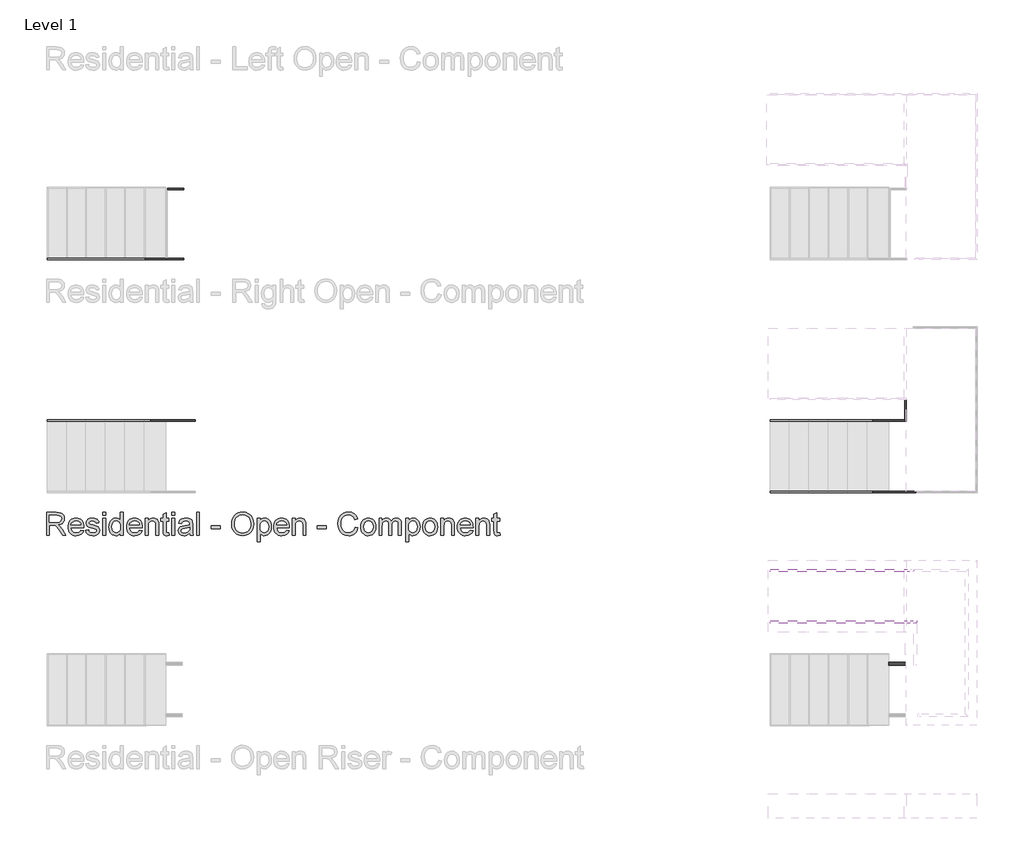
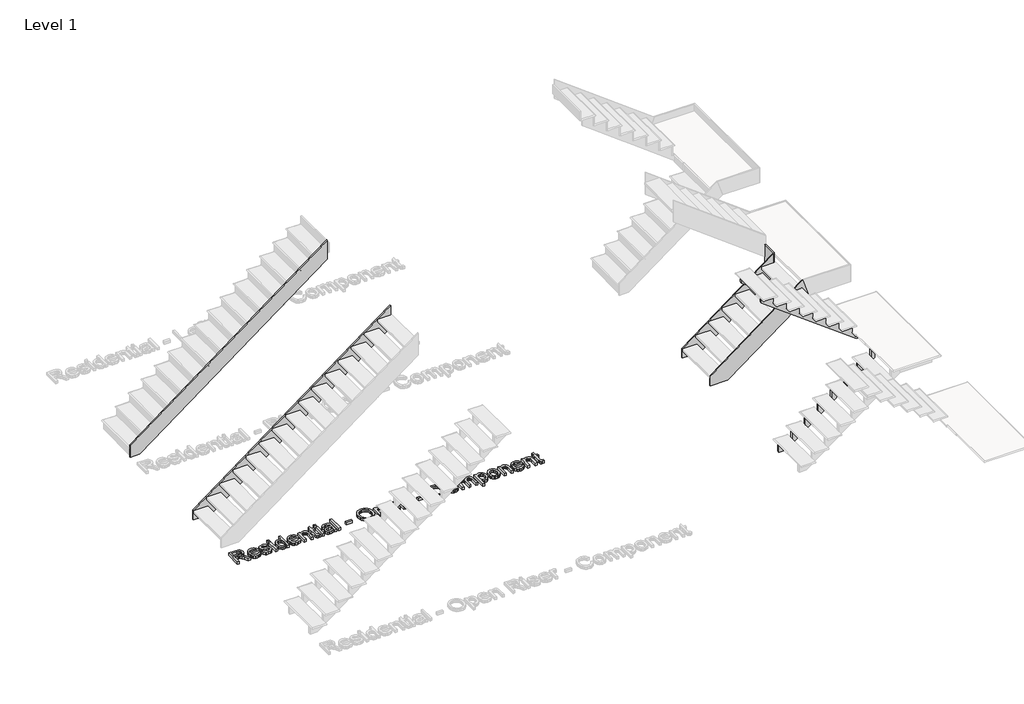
# One storey, part 6 of 15: 9 members, 1 proxy.
"""IFC4 building model written with IfcOpenShell, lengths in millimetres."""

from ifc_helpers import new_model, si_unit, frame, origin, origin_with_axes, place, context, project, spatial, polyline, outline, extrude, faceted_brep, element, save

model = new_model("IFC4")

# Units and contexts
model_context = context("Model", 3, world=origin())
ifc_project = project(units=[si_unit("LENGTHUNIT", "METRE", prefix="MILLI")], contexts=[model_context])

# Site, building, storey
site = spatial("IfcSite", under=ifc_project)
building = spatial("IfcBuilding", under=site)
storey = spatial("IfcBuildingStorey", under=building, Name="Level 1", Elevation=0.0)

# Proxy
placement = place(None, origin())
element("IfcBuildingElementProxy", 1, Name="12\" Arial", ObjectType="12\" Arial", at=placement, inside=storey, context=model_context, shape_type="SweptSolid", body=[
    extrude(outline(polyline([(-27238.310174, -5763.1232123), (-27238.310174, -5463.012443), (-27108.9899817, -5463.012443), (-27074.2328904, -5465.0365055), (-27048.9458471, -5471.108693), (-27030.4636837, -5482.3188854), (-27016.1212317, -5499.7569623), (-27006.9167846, -5521.380544), (-27003.8486356, -5545.1472507), (-27008.9316885, -5574.7113854), (-27024.1808471, -5599.219943), (-27035.7321993, -5609.2074551), (-27050.0540442, -5617.1892219), (-27087.0092125, -5627.13552), (-27065.6878664, -5643.1814815), (-27035.2811356, -5681.7943661), (-26985.238251, -5763.1232123), (-27028.8334433, -5763.1232123), (-27067.8859433, -5700.9176354), (-27096.0945971, -5659.7403277), (-27115.913924, -5640.2873469), (-27133.7549817, -5633.1435969), (-27155.5159433, -5631.8247507), (-27200.7963279, -5631.8247507), (-27200.7963279, -5763.1232123), (-27238.310174, -5763.1232123)]), holes=[polyline([(-27200.7963279, -5594.3109046), (-27116.8297894, -5594.3109046), (-27092.7150539, -5592.9828998), (-27074.003924, -5588.9988854), (-27059.9179144, -5582.0932604), (-27049.6785394, -5572.0004238), (-27043.4414962, -5559.7919382), (-27041.3624817, -5546.5393661), (-27045.3281789, -5528.2403757), (-27057.2252702, -5513.494943), (-27077.6948615, -5503.7684527), (-27107.3780587, -5500.5262892), (-27200.7963279, -5500.5262892), (-27200.7963279, -5594.3109046)])]), origin_with_axes(), (0.0, 0.0, 1.0), 50.8),
    extrude(outline(polyline([(-26788.5836356, -5697.4739815), (-26751.8024817, -5702.1632123), (-26765.0550539, -5729.8772988), (-26786.2023856, -5750.5941738), (-26814.7682269, -5763.5078757), (-26850.2763279, -5767.812443), (-26873.5530466, -5765.955526), (-26894.2928183, -5760.3847748), (-26912.4956428, -5751.1001894), (-26928.1615202, -5738.10177), (-26940.7592486, -5721.7512832), (-26949.757626, -5702.4104959), (-26955.1566524, -5680.0794082), (-26956.9563279, -5654.75802), (-26955.1383351, -5628.5780079), (-26949.6843567, -5605.5027796), (-26940.5943928, -5585.5323349), (-26927.8684433, -5568.6666738), (-26912.2437798, -5555.2675632), (-26894.457674, -5545.69677), (-26874.510126, -5539.954294), (-26852.4011356, -5538.0401354), (-26831.0042305, -5539.9497147), (-26811.6542846, -5545.6784527), (-26794.3512978, -5555.2263493), (-26779.0952702, -5568.5934046), (-26766.6417906, -5585.422431), (-26757.7464481, -5605.3562411), (-26752.4092426, -5628.3948349), (-26750.630174, -5654.5382123), (-26750.8499817, -5664.6493661), (-26919.4424817, -5664.6493661), (-26912.9489962, -5692.7297988), (-26897.8646933, -5713.3734046), (-26876.0945731, -5726.0672988), (-26849.5436356, -5730.2985969), (-26829.5777702, -5728.338645), (-26812.7624817, -5722.4587892), (-26799.0977702, -5712.2926834), (-26788.5836356, -5697.4739815)]), holes=[polyline([(-26919.4424817, -5627.13552), (-26788.1440202, -5627.13552), (-26793.2179144, -5607.316193), (-26803.1642125, -5593.1385969), (-26825.0350779, -5579.9501354), (-26852.547674, -5575.5539815), (-26877.8347173, -5579.0617459), (-26898.743924, -5589.5850392), (-26913.2787077, -5605.9881882), (-26919.4424817, -5627.13552)])]), origin_with_axes(), (0.0, 0.0, 1.0), 50.8),
    extrude(outline(polyline([(-26727.1840202, -5697.4739815), (-26689.670174, -5692.7847507), (-26683.7536837, -5708.8307123), (-26672.3053664, -5720.6270584), (-26655.2519529, -5727.8807123), (-26632.520174, -5730.2985969), (-26610.0631548, -5728.0822027), (-26594.2736356, -5721.43302), (-26584.9318087, -5711.7981161), (-26581.8178664, -5700.6245584), (-26584.950126, -5691.0629238), (-26594.3469048, -5683.7726354), (-26632.9597894, -5673.0753277), (-26689.4503664, -5654.7213854), (-26703.747025, -5645.4986209), (-26714.1054625, -5633.2901354), (-26720.3974577, -5618.8744142), (-26722.4947894, -5603.029943), (-26720.8095971, -5588.4951594), (-26715.7540202, -5575.0777315), (-26707.7859914, -5563.3088613), (-26697.3634433, -5553.7197507), (-26673.5143087, -5542.6194623), (-26641.2392125, -5538.0401354), (-26616.8222414, -5539.8810248), (-26595.5924817, -5545.403693), (-26578.520751, -5554.0677796), (-26566.5778664, -5565.3329238), (-26558.6647894, -5580.0325632), (-26553.6824817, -5599.0001354), (-26591.1963279, -5603.6893661), (-26595.9313519, -5591.8838613), (-26605.3006548, -5582.9908084), (-26619.3958231, -5577.4131882), (-26638.3084433, -5575.5539815), (-26659.8495971, -5577.3307604), (-26674.2103664, -5582.6610969), (-26682.288299, -5590.3543661), (-26684.9809433, -5599.219943), (-26680.5115202, -5610.1370584), (-26666.5170971, -5618.4164815), (-26634.2053664, -5626.4028277), (-26579.1435394, -5644.0607123), (-26564.5995971, -5652.5049911), (-26553.5725779, -5664.0632123), (-26546.6211596, -5678.7720104), (-26544.3040202, -5696.66802), (-26547.0241404, -5715.1685007), (-26555.184501, -5732.569943), (-26568.4737077, -5747.5077075), (-26586.5803664, -5758.6171546), (-26608.4512317, -5765.5136209), (-26633.0330587, -5767.812443), (-26670.858299, -5763.3796546), (-26698.4624817, -5750.0812892), (-26716.8896933, -5728.0638854), (-26727.1840202, -5697.4739815)])), origin_with_axes(), (0.0, 0.0, 1.0), 50.8),
    extrude(outline(polyline([(-26502.1009433, -5763.1232123), (-26502.1009433, -5542.7293661), (-26464.5870971, -5542.7293661), (-26464.5870971, -5763.1232123), (-26502.1009433, -5763.1232123)])), origin_with_axes(), (0.0, 0.0, 1.0), 50.8),
    extrude(outline(polyline([(-26502.1009433, -5500.5262892), (-26502.1009433, -5463.012443), (-26464.5870971, -5463.012443), (-26464.5870971, -5500.5262892), (-26502.1009433, -5500.5262892)])), origin_with_axes(), (0.0, 0.0, 1.0), 50.8),
    extrude(outline(polyline([(-26272.3286356, -5763.1232123), (-26272.3286356, -5727.7341738), (-26283.5525659, -5745.2684166), (-26297.1485875, -5757.7928757), (-26313.1167005, -5765.3075512), (-26331.4569048, -5767.812443), (-26355.7090202, -5764.1856161), (-26377.9095971, -5753.3051354), (-26396.7031548, -5735.931169), (-26410.7342125, -5712.8238854), (-26419.4715683, -5684.9174671), (-26422.3840202, -5653.1460969), (-26419.7005346, -5621.7685488), (-26411.6500779, -5593.4316738), (-26398.2418087, -5569.747395), (-26379.4848856, -5552.3276354), (-26356.7989, -5541.6120104), (-26331.6034433, -5538.0401354), (-26313.249501, -5540.5953998), (-26297.0203664, -5548.261193), (-26283.2640683, -5560.0117459), (-26272.3286356, -5574.8212892), (-26272.3286356, -5463.012443), (-26234.8147894, -5463.012443), (-26234.8147894, -5763.1232123), (-26272.3286356, -5763.1232123)]), holes=[polyline([(-26384.870174, -5652.9995584), (-26380.638876, -5686.9323709), (-26367.9449817, -5711.0654238), (-26349.4994529, -5725.4903036), (-26328.013251, -5730.2985969), (-26306.5362077, -5725.7101113), (-26288.5577702, -5711.9446546), (-26276.3859192, -5688.7457844), (-26272.3286356, -5655.8570584), (-26276.4591885, -5619.9001834), (-26288.8508471, -5594.9703277), (-26307.2872173, -5580.408068), (-26329.5519048, -5575.5539815), (-26351.2579144, -5580.2157363), (-26369.0440202, -5594.2010007), (-26380.9136356, -5618.2241498), (-26384.870174, -5652.9995584)])]), origin_with_axes(), (0.0, 0.0, 1.0), 50.8),
    extrude(outline(polyline([(-26024.2390202, -5697.4739815), (-25987.4578664, -5702.1632123), (-26000.7104385, -5729.8772988), (-26021.8577702, -5750.5941738), (-26050.4236115, -5763.5078757), (-26085.9317125, -5767.812443), (-26109.2084313, -5765.955526), (-26129.9482029, -5760.3847748), (-26148.1510274, -5751.1001894), (-26163.8169048, -5738.10177), (-26176.4146332, -5721.7512832), (-26185.4130106, -5702.4104959), (-26190.812037, -5680.0794082), (-26192.6117125, -5654.75802), (-26190.7937197, -5628.5780079), (-26185.3397414, -5605.5027796), (-26176.2497774, -5585.5323349), (-26163.5238279, -5568.6666738), (-26147.8991644, -5555.2675632), (-26130.1130587, -5545.69677), (-26110.1655106, -5539.954294), (-26088.0565202, -5538.0401354), (-26066.6596152, -5539.9497147), (-26047.3096692, -5545.6784527), (-26030.0066825, -5555.2263493), (-26014.7506548, -5568.5934046), (-26002.2971753, -5585.422431), (-25993.4018327, -5605.3562411), (-25988.0646272, -5628.3948349), (-25986.2855587, -5654.5382123), (-25986.5053664, -5664.6493661), (-26155.0978664, -5664.6493661), (-26148.6043808, -5692.7297988), (-26133.5200779, -5713.3734046), (-26111.7499577, -5726.0672988), (-26085.1990202, -5730.2985969), (-26065.2331548, -5728.338645), (-26048.4178664, -5722.4587892), (-26034.7531548, -5712.2926834), (-26024.2390202, -5697.4739815)]), holes=[polyline([(-26155.0978664, -5627.13552), (-26023.7994048, -5627.13552), (-26028.873299, -5607.316193), (-26038.8195971, -5593.1385969), (-26060.6904625, -5579.9501354), (-26088.2030587, -5575.5539815), (-26113.4901019, -5579.0617459), (-26134.3993087, -5589.5850392), (-26148.9340923, -5605.9881882), (-26155.0978664, -5627.13552)])]), origin_with_axes(), (0.0, 0.0, 1.0), 50.8),
    extrude(outline(polyline([(-25948.7717125, -5763.1232123), (-25948.7717125, -5542.7293661), (-25911.2578664, -5542.7293661), (-25911.2578664, -5573.502443), (-25898.2251019, -5557.9876834), (-25882.5729625, -5546.9057123), (-25864.3014481, -5540.2565296), (-25843.4105587, -5538.0401354), (-25824.9192365, -5539.8260729), (-25807.9848856, -5545.1838854), (-25793.8622414, -5553.4449911), (-25783.8060394, -5563.9408084), (-25772.5592125, -5591.5266738), (-25770.5809433, -5627.794943), (-25770.5809433, -5763.1232123), (-25808.0947894, -5763.1232123), (-25808.0947894, -5632.85052), (-25812.417674, -5599.6595584), (-25818.398275, -5589.7773709), (-25827.6943087, -5582.1115777), (-25839.6097173, -5577.1933805), (-25853.4484433, -5575.5539815), (-25875.4200539, -5579.2357604), (-25894.149501, -5590.2810969), (-25901.6344108, -5599.2977916), (-25906.980775, -5611.6207604), (-25911.2578664, -5646.18552), (-25911.2578664, -5763.1232123), (-25948.7717125, -5763.1232123)])), origin_with_axes(), (0.0, 0.0, 1.0), 50.8),
    extrude(outline(polyline([(-25639.2824817, -5731.8372507), (-25634.593251, -5764.2222507), (-25662.6553664, -5767.812443), (-25680.6612798, -5766.2554719), (-25694.0878664, -5761.5845584), (-25703.5762317, -5754.3858565), (-25709.7674817, -5745.24552), (-25713.174501, -5729.5475873), (-25714.310174, -5702.6760969), (-25714.310174, -5580.2432123), (-25742.4455587, -5580.2432123), (-25742.4455587, -5542.7293661), (-25714.310174, -5542.7293661), (-25714.310174, -5489.1695584), (-25676.7963279, -5467.11552), (-25676.7963279, -5542.7293661), (-25639.2824817, -5542.7293661), (-25639.2824817, -5580.2432123), (-25676.7963279, -5580.2432123), (-25676.7963279, -5701.5770584), (-25674.8180587, -5720.9201354), (-25668.407001, -5727.7708084), (-25655.6215202, -5730.2985969), (-25639.2824817, -5731.8372507)])), origin_with_axes(), (0.0, 0.0, 1.0), 50.8),
    extrude(outline(polyline([(-25601.7686356, -5763.1232123), (-25601.7686356, -5542.7293661), (-25564.2547894, -5542.7293661), (-25564.2547894, -5763.1232123), (-25601.7686356, -5763.1232123)])), origin_with_axes(), (0.0, 0.0, 1.0), 50.8),
    extrude(outline(polyline([(-25601.7686356, -5500.5262892), (-25601.7686356, -5463.012443), (-25564.2547894, -5463.012443), (-25564.2547894, -5500.5262892), (-25601.7686356, -5500.5262892)])), origin_with_axes(), (0.0, 0.0, 1.0), 50.8),
    extrude(outline(polyline([(-25367.3070971, -5734.9878277), (-25385.2305827, -5750.3560488), (-25403.6852702, -5760.4122507), (-25423.0924577, -5765.962395), (-25443.8734433, -5767.812443), (-25475.2235154, -5763.3613373), (-25498.3491164, -5750.00802), (-25512.6091404, -5729.7307604), (-25517.3624817, -5704.5078277), (-25515.5673856, -5688.9564334), (-25510.1820971, -5674.8337892), (-25501.8751981, -5662.7443661), (-25491.3152702, -5653.2926354), (-25465.048251, -5640.9834046), (-25432.5899817, -5635.3416738), (-25394.2335394, -5629.4068661), (-25367.5269048, -5622.4462892), (-25367.3070971, -5614.0935969), (-25369.8898375, -5597.3515777), (-25377.6380587, -5586.3978277), (-25394.9662317, -5578.264943), (-25419.1084433, -5575.5539815), (-25441.4555587, -5577.3582363), (-25457.0619048, -5582.7710007), (-25467.7042606, -5592.7814094), (-25475.1594048, -5608.3785969), (-25512.673251, -5603.6893661), (-25506.1614481, -5583.1739815), (-25496.4441164, -5567.0547507), (-25482.614549, -5554.7272027), (-25463.7660394, -5545.5868661), (-25440.7137077, -5539.926818), (-25414.272674, -5538.0401354), (-25388.9123615, -5539.7070104), (-25368.8091164, -5544.7076354), (-25353.6515442, -5552.2268902), (-25343.128251, -5561.4496546), (-25336.1493567, -5572.8521786), (-25331.6249817, -5586.9107123), (-25329.793251, -5619.7353277), (-25329.793251, -5666.4078277), (-25327.888251, -5731.5808084), (-25320.4147894, -5763.1232123), (-25357.9286356, -5763.1232123), (-25367.3070971, -5734.9878277)]), holes=[polyline([(-25367.3070971, -5659.9601354), (-25427.8274817, -5671.4634046), (-25460.1025779, -5677.5447507), (-25474.7197894, -5687.4360969), (-25479.8486356, -5701.8701354), (-25477.0552462, -5713.0253757), (-25468.6750779, -5722.1657123), (-25454.8913039, -5728.2653757), (-25435.8870971, -5730.2985969), (-25415.7380587, -5728.0547267), (-25397.9336356, -5721.3231161), (-25383.4995971, -5711.404294), (-25373.4617125, -5699.5987892), (-25369.0106067, -5687.4360969), (-25367.5269048, -5670.5841738), (-25367.3070971, -5659.9601354)])]), origin_with_axes(), (0.0, 0.0, 1.0), 50.8),
    extrude(outline(polyline([(-25278.2117125, -5763.1232123), (-25278.2117125, -5463.012443), (-25240.6978664, -5463.012443), (-25240.6978664, -5763.1232123), (-25278.2117125, -5763.1232123)])), origin_with_axes(), (0.0, 0.0, 1.0), 50.8),
    extrude(outline(polyline([(-25085.953251, -5674.0278277), (-25085.953251, -5636.5139815), (-24968.7224817, -5636.5139815), (-24968.7224817, -5674.0278277), (-25085.953251, -5674.0278277)])), origin_with_axes(), (0.0, 0.0, 1.0), 50.8),
    extrude(outline(polyline([(-24818.6670971, -5617.0243661), (-24816.1667846, -5581.8230801), (-24808.6658471, -5550.6607604), (-24796.1642846, -5523.537407), (-24778.6620971, -5500.45302), (-24757.2079505, -5482.0212291), (-24732.8505106, -5468.8556642), (-24705.5897774, -5460.9563253), (-24675.425751, -5458.3232123), (-24636.0618567, -5463.2688854), (-24600.7644048, -5478.1059046), (-24571.4567125, -5501.7901834), (-24550.0620971, -5533.2776354), (-24536.9835394, -5571.0479238), (-24532.6240202, -5613.5807123), (-24537.2125058, -5656.6813373), (-24550.9779625, -5694.9828277), (-24573.1602221, -5726.5252315), (-24602.9991164, -5749.3485969), (-24637.9943327, -5763.1964815), (-24675.6455587, -5767.812443), (-24715.613924, -5762.7110729), (-24751.1128664, -5747.4069623), (-24780.3472894, -5723.283068), (-24801.5220971, -5691.7223469), (-24814.3808471, -5655.4082844), (-24818.6670971, -5617.0243661)]), holes=[polyline([(-24781.153251, -5617.3907123), (-24779.2780166, -5642.2610368), (-24773.6523135, -5664.3379719), (-24764.2761416, -5683.6215176), (-24751.149501, -5700.1116738), (-24735.1928363, -5713.3184527), (-24717.3265923, -5722.7518661), (-24697.550769, -5728.4119142), (-24675.8653664, -5730.2985969), (-24653.8090382, -5728.3935969), (-24633.7996692, -5722.6785969), (-24615.8372594, -5713.1535969), (-24599.9218087, -5699.8185969), (-24586.8913339, -5682.9804118), (-24577.5838519, -5662.9458565), (-24571.9993628, -5639.714931), (-24570.1378664, -5613.2876354), (-24573.3250779, -5580.0783565), (-24582.8867125, -5551.3751354), (-24598.5754865, -5527.9015055), (-24620.1441164, -5510.3810007), (-24646.1638519, -5499.473044), (-24675.2059433, -5495.8370584), (-24696.1380466, -5497.588651), (-24715.5589721, -5502.8434286), (-24733.4687197, -5511.6013914), (-24749.8672894, -5523.8625392), (-24763.5548976, -5540.2176053), (-24773.3317606, -5561.2573229), (-24779.1978784, -5586.9816918), (-24781.153251, -5617.3907123)])]), origin_with_axes(), (0.0, 0.0, 1.0), 50.8),
    extrude(outline(polyline([(-24485.7317125, -5847.5293661), (-24485.7317125, -5542.7293661), (-24448.2178664, -5542.7293661), (-24448.2178664, -5579.51052), (-24435.9819048, -5561.3672267), (-24422.2805587, -5548.4077315), (-24406.3078664, -5540.6320344), (-24387.2578664, -5538.0401354), (-24361.8883952, -5541.6669623), (-24339.7061356, -5552.547443), (-24321.6452702, -5570.0221546), (-24308.6399817, -5593.4316738), (-24300.7818567, -5621.0724911), (-24298.1624817, -5651.2410969), (-24301.1207269, -5683.3238613), (-24309.9954625, -5712.0179238), (-24324.5027702, -5735.8670584), (-24344.3587317, -5753.4150392), (-24367.4843327, -5764.2130921), (-24391.8005587, -5767.812443), (-24409.0463039, -5765.4037171), (-24424.442001, -5758.1775392), (-24437.6213039, -5747.2695825), (-24448.2178664, -5733.81552), (-24448.2178664, -5847.5293661), (-24485.7317125, -5847.5293661)]), holes=[polyline([(-24448.2178664, -5654.6847507), (-24444.1605827, -5688.3153277), (-24431.9887317, -5711.8347507), (-24414.0286115, -5725.6826354), (-24392.6065202, -5730.2985969), (-24370.8364, -5725.5177796), (-24352.4183471, -5711.1753277), (-24339.8618327, -5686.7949911), (-24335.6763279, -5651.90052), (-24339.7610875, -5618.4531161), (-24352.0153664, -5594.6039815), (-24369.9480106, -5580.3164815), (-24391.0678664, -5575.5539815), (-24412.27015, -5580.6187171), (-24430.8896933, -5595.8129238), (-24443.8858231, -5620.6603517), (-24448.2178664, -5654.6847507)])]), origin_with_axes(), (0.0, 0.0, 1.0), 50.8),
    extrude(outline(polyline([(-24101.6544048, -5697.4739815), (-24064.873251, -5702.1632123), (-24078.1258231, -5729.8772988), (-24099.2731548, -5750.5941738), (-24127.8389962, -5763.5078757), (-24163.3470971, -5767.812443), (-24186.6238159, -5765.955526), (-24207.3635875, -5760.3847748), (-24225.566412, -5751.1001894), (-24241.2322894, -5738.10177), (-24253.8300178, -5721.7512832), (-24262.8283952, -5702.4104959), (-24268.2274216, -5680.0794082), (-24270.0270971, -5654.75802), (-24268.2091043, -5628.5780079), (-24262.755126, -5605.5027796), (-24253.665162, -5585.5323349), (-24240.9392125, -5568.6666738), (-24225.314549, -5555.2675632), (-24207.5284433, -5545.69677), (-24187.5808952, -5539.954294), (-24165.4719048, -5538.0401354), (-24144.0749998, -5539.9497147), (-24124.7250539, -5545.6784527), (-24107.4220671, -5555.2263493), (-24092.1660394, -5568.5934046), (-24079.7125599, -5585.422431), (-24070.8172173, -5605.3562411), (-24065.4800118, -5628.3948349), (-24063.7009433, -5654.5382123), (-24063.920751, -5664.6493661), (-24232.513251, -5664.6493661), (-24226.0197654, -5692.7297988), (-24210.9354625, -5713.3734046), (-24189.1653423, -5726.0672988), (-24162.6144048, -5730.2985969), (-24142.6485394, -5728.338645), (-24125.833251, -5722.4587892), (-24112.1685394, -5712.2926834), (-24101.6544048, -5697.4739815)]), holes=[polyline([(-24232.513251, -5627.13552), (-24101.2147894, -5627.13552), (-24106.2886837, -5607.316193), (-24116.2349817, -5593.1385969), (-24138.1058471, -5579.9501354), (-24165.6184433, -5575.5539815), (-24190.9054865, -5579.0617459), (-24211.8146933, -5589.5850392), (-24226.3494769, -5605.9881882), (-24232.513251, -5627.13552)])]), origin_with_axes(), (0.0, 0.0, 1.0), 50.8),
    extrude(outline(polyline([(-24026.1870971, -5763.1232123), (-24026.1870971, -5542.7293661), (-23988.673251, -5542.7293661), (-23988.673251, -5573.502443), (-23975.6404865, -5557.9876834), (-23959.9883471, -5546.9057123), (-23941.7168327, -5540.2565296), (-23920.8259433, -5538.0401354), (-23902.3346212, -5539.8260729), (-23885.4002702, -5545.1838854), (-23871.277626, -5553.4449911), (-23861.221424, -5563.9408084), (-23849.9745971, -5591.5266738), (-23847.9963279, -5627.794943), (-23847.9963279, -5763.1232123), (-23885.510174, -5763.1232123), (-23885.510174, -5632.85052), (-23889.8330587, -5599.6595584), (-23895.8136596, -5589.7773709), (-23905.1096933, -5582.1115777), (-23917.0251019, -5577.1933805), (-23930.8638279, -5575.5539815), (-23952.8354385, -5579.2357604), (-23971.5648856, -5590.2810969), (-23979.0497954, -5599.2977916), (-23984.3961596, -5611.6207604), (-23988.673251, -5646.18552), (-23988.673251, -5763.1232123), (-24026.1870971, -5763.1232123)])), origin_with_axes(), (0.0, 0.0, 1.0), 50.8),
    extrude(outline(polyline([(-23697.9409433, -5674.0278277), (-23697.9409433, -5636.5139815), (-23580.710174, -5636.5139815), (-23580.710174, -5674.0278277), (-23697.9409433, -5674.0278277)])), origin_with_axes(), (0.0, 0.0, 1.0), 50.8),
    extrude(outline(polyline([(-23205.5717125, -5656.4432123), (-23168.0578664, -5666.1147507), (-23175.4809553, -5689.4441317), (-23185.3677221, -5709.8290055), (-23197.7181668, -5727.2693721), (-23212.5322894, -5741.7652315), (-23229.475799, -5753.1608866), (-23248.2144048, -5761.3006402), (-23268.7481067, -5766.1844923), (-23291.0769048, -5767.812443), (-23334.5896692, -5762.8850873), (-23369.1452702, -5748.10302), (-23395.6320971, -5723.9791257), (-23414.9385394, -5691.0262892), (-23426.7257269, -5652.2851834), (-23430.6547894, -5610.7964815), (-23426.2128423, -5567.0364334), (-23412.887001, -5529.2478277), (-23391.3733231, -5498.6304479), (-23362.3678664, -5476.3840777), (-23327.9679625, -5462.8384286), (-23290.2709433, -5458.3232123), (-23249.1394289, -5464.1664334), (-23231.2457089, -5471.4704599), (-23215.1333471, -5481.6960969), (-23201.0679445, -5494.5731642), (-23189.3151019, -5509.8314815), (-23172.7470971, -5547.4918661), (-23210.2609433, -5556.4307123), (-23223.2662317, -5529.0738132), (-23241.0340202, -5510.3077315), (-23263.7841164, -5499.4547267), (-23291.7363279, -5495.8370584), (-23323.9564721, -5499.8485488), (-23350.4249817, -5511.88302), (-23370.5099096, -5530.6765777), (-23383.5793087, -5554.9653277), (-23390.7505346, -5582.4229719), (-23393.1409433, -5610.7232123), (-23390.3109192, -5645.3795584), (-23381.8208471, -5675.3466738), (-23367.350174, -5699.4797267), (-23346.5783471, -5716.6338854), (-23321.6759673, -5726.882419), (-23294.8136356, -5730.2985969), (-23263.5001981, -5725.6460007), (-23237.4071933, -5711.6882123), (-23217.7069289, -5688.57177), (-23205.5717125, -5656.4432123)])), origin_with_axes(), (0.0, 0.0, 1.0), 50.8),
    extrude(outline(polyline([(-23130.5440202, -5652.9262892), (-23128.5153784, -5624.3833445), (-23122.4294529, -5599.7877796), (-23112.2862438, -5579.1395945), (-23098.085751, -5562.4387892), (-23083.7890923, -5551.7643781), (-23068.0087317, -5544.1397988), (-23050.7446692, -5539.5650512), (-23031.9969048, -5538.0401354), (-23011.3006368, -5539.8970524), (-22992.5872173, -5545.4678036), (-22975.8566464, -5554.752389), (-22961.108924, -5567.7508084), (-22949.0721632, -5584.0234466), (-22940.4744769, -5603.1306882), (-22935.3158652, -5625.0725332), (-22933.5963279, -5649.8489815), (-22936.637001, -5687.7474911), (-22945.7590202, -5716.5972507), (-22960.6967846, -5738.2025152), (-22981.1846933, -5754.3675392), (-23005.5192365, -5764.4512171), (-23031.9969048, -5767.812443), (-23052.9954084, -5765.962395), (-23071.8828423, -5760.4122507), (-23088.6592065, -5751.1620104), (-23103.324501, -5738.2116738), (-23115.2330406, -5721.7810488), (-23123.7391404, -5702.089943), (-23128.8428003, -5679.1383565), (-23130.5440202, -5652.9262892)]), holes=[polyline([(-23093.030174, -5652.85302), (-23088.6889721, -5686.8041498), (-23075.6653664, -5710.9921546), (-23056.0658471, -5725.4719863), (-23031.9969048, -5730.2985969), (-23008.0378664, -5725.4445104), (-22988.4749817, -5710.8822507), (-22975.451376, -5686.373693), (-22971.110174, -5651.6807123), (-22975.4788519, -5618.7187171), (-22988.5848856, -5594.8604238), (-23008.1752462, -5580.3805921), (-23031.9969048, -5575.5539815), (-23056.0658471, -5580.3622748), (-23075.6653664, -5594.7871546), (-23088.6889721, -5618.9202075), (-23093.030174, -5652.85302)])]), origin_with_axes(), (0.0, 0.0, 1.0), 50.8),
    extrude(outline(polyline([(-22891.393251, -5763.1232123), (-22891.393251, -5542.7293661), (-22853.8794048, -5542.7293661), (-22853.8794048, -5578.9976354), (-22842.5959433, -5562.338044), (-22828.0886356, -5549.2869623), (-22810.852049, -5540.8518421), (-22791.380751, -5538.0401354), (-22770.5173375, -5540.906794), (-22753.7936356, -5549.50677), (-22741.3012317, -5563.2722267), (-22733.1317125, -5581.6353277), (-22719.4578423, -5562.562431), (-22703.8606548, -5548.9389334), (-22686.34015, -5540.7648349), (-22666.8963279, -5538.0401354), (-22638.6968327, -5542.573669), (-22617.8425779, -5556.17427), (-22604.9563519, -5579.2082844), (-22600.6609433, -5612.0420584), (-22600.6609433, -5763.1232123), (-22638.1747894, -5763.1232123), (-22638.1747894, -5628.1612892), (-22641.6550779, -5596.838693), (-22646.545799, -5588.2020825), (-22654.2573856, -5581.41552), (-22664.1762077, -5577.0193661), (-22675.6886356, -5575.5539815), (-22696.0116885, -5579.3090296), (-22712.5796933, -5590.5741738), (-22723.5975539, -5610.1187411), (-22727.270174, -5638.7120584), (-22727.270174, -5763.1232123), (-22764.7840202, -5763.1232123), (-22764.7840202, -5623.984943), (-22766.9546212, -5602.7735007), (-22773.466424, -5587.6434046), (-22784.9239, -5578.5763373), (-22801.9315202, -5575.5539815), (-22816.383876, -5577.5688854), (-22829.7005587, -5583.6135969), (-22840.6909433, -5593.5415777), (-22848.1644048, -5607.2062892), (-22852.4506548, -5626.1647027), (-22853.8794048, -5651.9737892), (-22853.8794048, -5763.1232123), (-22891.393251, -5763.1232123)])), origin_with_axes(), (0.0, 0.0, 1.0), 50.8),
    extrude(outline(polyline([(-22544.390174, -5847.5293661), (-22544.390174, -5542.7293661), (-22506.8763279, -5542.7293661), (-22506.8763279, -5579.51052), (-22494.6403664, -5561.3672267), (-22480.9390202, -5548.4077315), (-22464.9663279, -5540.6320344), (-22445.9163279, -5538.0401354), (-22420.5468567, -5541.6669623), (-22398.3645971, -5552.547443), (-22380.3037317, -5570.0221546), (-22367.2984433, -5593.4316738), (-22359.4403183, -5621.0724911), (-22356.8209433, -5651.2410969), (-22359.7791885, -5683.3238613), (-22368.653924, -5712.0179238), (-22383.1612317, -5735.8670584), (-22403.0171933, -5753.4150392), (-22426.1427942, -5764.2130921), (-22450.4590202, -5767.812443), (-22467.7047654, -5765.4037171), (-22483.1004625, -5758.1775392), (-22496.2797654, -5747.2695825), (-22506.8763279, -5733.81552), (-22506.8763279, -5847.5293661), (-22544.390174, -5847.5293661)]), holes=[polyline([(-22506.8763279, -5654.6847507), (-22502.8190442, -5688.3153277), (-22490.6471933, -5711.8347507), (-22472.6870731, -5725.6826354), (-22451.2649817, -5730.2985969), (-22429.4948615, -5725.5177796), (-22411.0768087, -5711.1753277), (-22398.5202942, -5686.7949911), (-22394.3347894, -5651.90052), (-22398.419549, -5618.4531161), (-22410.6738279, -5594.6039815), (-22428.6064721, -5580.3164815), (-22449.7263279, -5575.5539815), (-22470.9286115, -5580.6187171), (-22489.5481548, -5595.8129238), (-22502.5442846, -5620.6603517), (-22506.8763279, -5654.6847507)])]), origin_with_axes(), (0.0, 0.0, 1.0), 50.8),
    extrude(outline(polyline([(-22323.9963279, -5652.9262892), (-22321.9676861, -5624.3833445), (-22315.8817606, -5599.7877796), (-22305.7385515, -5579.1395945), (-22291.5380587, -5562.4387892), (-22277.2414, -5551.7643781), (-22261.4610394, -5544.1397988), (-22244.1969769, -5539.5650512), (-22225.4492125, -5538.0401354), (-22204.7529445, -5539.8970524), (-22186.039525, -5545.4678036), (-22169.3089541, -5554.752389), (-22154.5612317, -5567.7508084), (-22142.5244709, -5584.0234466), (-22133.9267846, -5603.1306882), (-22128.7681728, -5625.0725332), (-22127.0486356, -5649.8489815), (-22130.0893087, -5687.7474911), (-22139.2113279, -5716.5972507), (-22154.1490923, -5738.2025152), (-22174.637001, -5754.3675392), (-22198.9715442, -5764.4512171), (-22225.4492125, -5767.812443), (-22246.4477161, -5765.962395), (-22265.33515, -5760.4122507), (-22282.1115142, -5751.1620104), (-22296.7768087, -5738.2116738), (-22308.6853483, -5721.7810488), (-22317.1914481, -5702.089943), (-22322.2951079, -5679.1383565), (-22323.9963279, -5652.9262892)]), holes=[polyline([(-22286.4824817, -5652.85302), (-22282.1412798, -5686.8041498), (-22269.117674, -5710.9921546), (-22249.5181548, -5725.4719863), (-22225.4492125, -5730.2985969), (-22201.490174, -5725.4445104), (-22181.9272894, -5710.8822507), (-22168.9036837, -5686.373693), (-22164.5624817, -5651.6807123), (-22168.9311596, -5618.7187171), (-22182.0371933, -5594.8604238), (-22201.6275539, -5580.3805921), (-22225.4492125, -5575.5539815), (-22249.5181548, -5580.3622748), (-22269.117674, -5594.7871546), (-22282.1412798, -5618.9202075), (-22286.4824817, -5652.85302)])]), origin_with_axes(), (0.0, 0.0, 1.0), 50.8),
    extrude(outline(polyline([(-22084.8455587, -5763.1232123), (-22084.8455587, -5542.7293661), (-22047.3317125, -5542.7293661), (-22047.3317125, -5573.502443), (-22034.2989481, -5557.9876834), (-22018.6468087, -5546.9057123), (-22000.3752942, -5540.2565296), (-21979.4844048, -5538.0401354), (-21960.9930827, -5539.8260729), (-21944.0587317, -5545.1838854), (-21929.9360875, -5553.4449911), (-21919.8798856, -5563.9408084), (-21908.6330587, -5591.5266738), (-21906.6547894, -5627.794943), (-21906.6547894, -5763.1232123), (-21944.1686356, -5763.1232123), (-21944.1686356, -5632.85052), (-21948.4915202, -5599.6595584), (-21954.4721212, -5589.7773709), (-21963.7681548, -5582.1115777), (-21975.6835635, -5577.1933805), (-21989.5222894, -5575.5539815), (-22011.4939, -5579.2357604), (-22030.2233471, -5590.2810969), (-22037.708257, -5599.2977916), (-22043.0546212, -5611.6207604), (-22047.3317125, -5646.18552), (-22047.3317125, -5763.1232123), (-22084.8455587, -5763.1232123)])), origin_with_axes(), (0.0, 0.0, 1.0), 50.8),
    extrude(outline(polyline([(-21700.768251, -5697.4739815), (-21663.9870971, -5702.1632123), (-21677.2396692, -5729.8772988), (-21698.387001, -5750.5941738), (-21726.9528423, -5763.5078757), (-21762.4609433, -5767.812443), (-21785.737662, -5765.955526), (-21806.4774337, -5760.3847748), (-21824.6802582, -5751.1001894), (-21840.3461356, -5738.10177), (-21852.943864, -5721.7512832), (-21861.9422414, -5702.4104959), (-21867.3412678, -5680.0794082), (-21869.1409433, -5654.75802), (-21867.3229505, -5628.5780079), (-21861.8689721, -5605.5027796), (-21852.7790082, -5585.5323349), (-21840.0530587, -5568.6666738), (-21824.4283952, -5555.2675632), (-21806.6422894, -5545.69677), (-21786.6947414, -5539.954294), (-21764.585751, -5538.0401354), (-21743.1888459, -5539.9497147), (-21723.8389, -5545.6784527), (-21706.5359132, -5555.2263493), (-21691.2798856, -5568.5934046), (-21678.826406, -5585.422431), (-21669.9310635, -5605.3562411), (-21664.5938579, -5628.3948349), (-21662.8147894, -5654.5382123), (-21663.0345971, -5664.6493661), (-21831.6270971, -5664.6493661), (-21825.1336115, -5692.7297988), (-21810.0493087, -5713.3734046), (-21788.2791885, -5726.0672988), (-21761.728251, -5730.2985969), (-21741.7623856, -5728.338645), (-21724.9470971, -5722.4587892), (-21711.2823856, -5712.2926834), (-21700.768251, -5697.4739815)]), holes=[polyline([(-21831.6270971, -5627.13552), (-21700.3286356, -5627.13552), (-21705.4025298, -5607.316193), (-21715.3488279, -5593.1385969), (-21737.2196933, -5579.9501354), (-21764.7322894, -5575.5539815), (-21790.0193327, -5579.0617459), (-21810.9285394, -5589.5850392), (-21825.4633231, -5605.9881882), (-21831.6270971, -5627.13552)])]), origin_with_axes(), (0.0, 0.0, 1.0), 50.8),
    extrude(outline(polyline([(-21625.3009433, -5763.1232123), (-21625.3009433, -5542.7293661), (-21587.7870971, -5542.7293661), (-21587.7870971, -5573.502443), (-21574.7543327, -5557.9876834), (-21559.1021933, -5546.9057123), (-21540.8306789, -5540.2565296), (-21519.9397894, -5538.0401354), (-21501.4484673, -5539.8260729), (-21484.5141164, -5545.1838854), (-21470.3914721, -5553.4449911), (-21460.3352702, -5563.9408084), (-21449.0884433, -5591.5266738), (-21447.110174, -5627.794943), (-21447.110174, -5763.1232123), (-21484.6240202, -5763.1232123), (-21484.6240202, -5632.85052), (-21488.9469048, -5599.6595584), (-21494.9275058, -5589.7773709), (-21504.2235394, -5582.1115777), (-21516.1389481, -5577.1933805), (-21529.977674, -5575.5539815), (-21551.9492846, -5579.2357604), (-21570.6787317, -5590.2810969), (-21578.1636416, -5599.2977916), (-21583.5100058, -5611.6207604), (-21587.7870971, -5646.18552), (-21587.7870971, -5763.1232123), (-21625.3009433, -5763.1232123)])), origin_with_axes(), (0.0, 0.0, 1.0), 50.8),
    extrude(outline(polyline([(-21315.8117125, -5731.8372507), (-21311.1224817, -5764.2222507), (-21339.1845971, -5767.812443), (-21357.1905106, -5766.2554719), (-21370.6170971, -5761.5845584), (-21380.1054625, -5754.3858565), (-21386.2967125, -5745.24552), (-21389.7037317, -5729.5475873), (-21390.8394048, -5702.6760969), (-21390.8394048, -5580.2432123), (-21418.9747894, -5580.2432123), (-21418.9747894, -5542.7293661), (-21390.8394048, -5542.7293661), (-21390.8394048, -5489.1695584), (-21353.3255587, -5467.11552), (-21353.3255587, -5542.7293661), (-21315.8117125, -5542.7293661), (-21315.8117125, -5580.2432123), (-21353.3255587, -5580.2432123), (-21353.3255587, -5701.5770584), (-21351.3472894, -5720.9201354), (-21344.9362317, -5727.7708084), (-21332.150751, -5730.2985969), (-21315.8117125, -5731.8372507)])), origin_with_axes(), (0.0, 0.0, 1.0), 50.8),
])

# Members
element("IfcMember", 2, at=placement, inside=storey, context=model_context, shape_type="Brep", body=[
    faceted_brep([(-27186.3981446, -1225.6871906, 0.0), (-27046.6981446, -1225.6871906, 0.0), (-27046.6981446, -1244.7371906, 0.0), (-27186.3981446, -1244.7371906, 0.0), (-23420.8481446, -1244.7371906, 2719.3875), (-23420.8481446, -1225.6871906, 2719.3875), (-23420.8481446, -1225.6871906, 2832.1), (-23420.8481446, -1244.7371906, 2832.1), (-26932.3981446, -1225.6871906, 85.725), (-26678.3981446, -1225.6871906, 276.225), (-26424.3981446, -1225.6871906, 466.725), (-26170.3981446, -1225.6871906, 657.225), (-25916.3981446, -1225.6871906, 847.725), (-25662.3981446, -1225.6871906, 1038.225), (-25408.3981446, -1225.6871906, 1228.725), (-25154.3981446, -1225.6871906, 1419.225), (-24900.3981446, -1225.6871906, 1609.725), (-24646.3981446, -1225.6871906, 1800.225), (-24392.3981446, -1225.6871906, 1990.725), (-24138.3981446, -1225.6871906, 2181.225), (-23884.3981446, -1225.6871906, 2371.725), (-23630.3981446, -1225.6871906, 2562.225), (-27186.3981446, -1225.6871906, 165.1), (-26932.3981446, -1225.6871906, 165.1), (-26932.3981446, -1225.6871906, 355.6), (-26678.3981446, -1225.6871906, 355.6), (-26678.3981446, -1225.6871906, 546.1), (-26424.3981446, -1225.6871906, 546.1), (-26424.3981446, -1225.6871906, 736.6), (-26170.3981446, -1225.6871906, 736.6), (-26170.3981446, -1225.6871906, 927.1), (-25916.3981446, -1225.6871906, 927.1), (-25916.3981446, -1225.6871906, 1117.6), (-25662.3981446, -1225.6871906, 1117.6), (-25662.3981446, -1225.6871906, 1308.1), (-25408.3981446, -1225.6871906, 1308.1), (-25408.3981446, -1225.6871906, 1498.6), (-25154.3981446, -1225.6871906, 1498.6), (-25154.3981446, -1225.6871906, 1689.1), (-24900.3981446, -1225.6871906, 1689.1), (-24900.3981446, -1225.6871906, 1879.6), (-24646.3981446, -1225.6871906, 1879.6), (-24646.3981446, -1225.6871906, 2070.1), (-24392.3981446, -1225.6871906, 2070.1), (-24392.3981446, -1225.6871906, 2260.6), (-24138.3981446, -1225.6871906, 2260.6), (-24138.3981446, -1225.6871906, 2451.1), (-23884.3981446, -1225.6871906, 2451.1), (-23884.3981446, -1225.6871906, 2641.6), (-23630.3981446, -1225.6871906, 2641.6), (-23630.3981446, -1225.6871906, 2832.1), (-23630.3981446, -1244.7371906, 2832.1), (-23630.3981446, -1244.7371906, 2641.6), (-23884.3981446, -1244.7371906, 2641.6), (-23884.3981446, -1244.7371906, 2451.1), (-24138.3981446, -1244.7371906, 2451.1), (-24138.3981446, -1244.7371906, 2260.6), (-24392.3981446, -1244.7371906, 2260.6), (-24392.3981446, -1244.7371906, 2070.1), (-24646.3981446, -1244.7371906, 2070.1), (-24646.3981446, -1244.7371906, 1879.6), (-24900.3981446, -1244.7371906, 1879.6), (-24900.3981446, -1244.7371906, 1689.1), (-25154.3981446, -1244.7371906, 1689.1), (-25154.3981446, -1244.7371906, 1498.6), (-25408.3981446, -1244.7371906, 1498.6), (-25408.3981446, -1244.7371906, 1308.1), (-25662.3981446, -1244.7371906, 1308.1), (-25662.3981446, -1244.7371906, 1117.6), (-25916.3981446, -1244.7371906, 1117.6), (-25916.3981446, -1244.7371906, 927.1), (-26170.3981446, -1244.7371906, 927.1), (-26170.3981446, -1244.7371906, 736.6), (-26424.3981446, -1244.7371906, 736.6), (-26424.3981446, -1244.7371906, 546.1), (-26678.3981446, -1244.7371906, 546.1), (-26678.3981446, -1244.7371906, 355.6), (-26932.3981446, -1244.7371906, 355.6), (-26932.3981446, -1244.7371906, 165.1), (-27186.3981446, -1244.7371906, 165.1)], [[[0, 1, 2, 3]], [[4, 5, 6, 7]], [[5, 4, 2, 1, 8, 9, 10, 11, 12, 13, 14, 15, 16, 17, 18, 19, 20, 21]], [[6, 5, 21, 20, 19, 18, 17, 16, 15, 14, 13, 12, 11, 10, 9, 8, 1, 0, 22, 23, 24, 25, 26, 27, 28, 29, 30, 31, 32, 33, 34, 35, 36, 37, 38, 39, 40, 41, 42, 43, 44, 45, 46, 47, 48, 49, 50]], [[50, 51, 7, 6]], [[4, 7, 51, 52, 53, 54, 55, 56, 57, 58, 59, 60, 61, 62, 63, 64, 65, 66, 67, 68, 69, 70, 71, 72, 73, 74, 75, 76, 77, 78, 79, 3, 2]], [[22, 79, 78, 23]], [[79, 22, 0, 3]], [[24, 77, 76, 25]], [[23, 78, 77, 24]], [[26, 75, 74, 27]], [[25, 76, 75, 26]], [[28, 73, 72, 29]], [[27, 74, 73, 28]], [[30, 71, 70, 31]], [[29, 72, 71, 30]], [[32, 69, 68, 33]], [[31, 70, 69, 32]], [[34, 67, 66, 35]], [[33, 68, 67, 34]], [[36, 65, 64, 37]], [[35, 66, 65, 36]], [[38, 63, 62, 39]], [[37, 64, 63, 38]], [[40, 61, 60, 41]], [[39, 62, 61, 40]], [[42, 59, 58, 43]], [[41, 60, 59, 42]], [[44, 57, 56, 45]], [[43, 58, 57, 44]], [[46, 55, 54, 47]], [[45, 56, 55, 46]], [[48, 53, 52, 49]], [[47, 54, 53, 48]], [[49, 52, 51, 50]]]),
])
element("IfcMember", 3, at=placement, inside=storey, context=model_context, shape_type="SweptSolid", body=[
    extrude(outline(polyline([(242.8875, -27230.8481446), (0.0, -27230.8481446), (0.0, -27046.6981446), (2719.3875, -23420.8481446), (3100.3875, -23420.8481446), (242.8875, -27230.8481446)])), frame((0.0, -2159.1371906, 0.0), z_axis=(0.0, 1.0, 0.0), x_axis=(0.0, 0.0, 1.0)), (0.0, 0.0, 1.0), 19.05),
])
element("IfcMember", 4, at=placement, inside=storey, context=model_context, shape_type="SweptSolid", body=[
    extrude(outline(polyline([(190.5, -27230.8481446), (0.0, -27230.8481446), (0.0, -26892.181478), (2603.5, -23420.8481446), (3048.0, -23420.8481446), (190.5, -27230.8481446)])), frame((0.0, -4273.6871906, 0.0), z_axis=(0.0, 1.0, 0.0), x_axis=(0.0, 0.0, 1.0)), (0.0, 0.0, 1.0), 19.05),
])
element("IfcMember", 5, at=placement, inside=storey, context=model_context, shape_type="SweptSolid", body=[
    extrude(outline(polyline([(190.5, -17782.0481446), (0.0, -17782.0481446), (0.0, -17443.381478), (1065.2125, -16023.0981446), (1509.7125, -16023.0981446), (190.5, -17782.0481446)])), frame((0.0, -4273.6871906, 0.0), z_axis=(0.0, 1.0, 0.0), x_axis=(0.0, 0.0, 1.0)), (0.0, 0.0, 1.0), 19.05),
])
element("IfcMember", 6, at=placement, inside=storey, context=model_context, shape_type="SweptSolid", body=[
    extrude(outline(polyline([(190.5, -17782.0481446), (0.0, -17782.0481446), (0.0, -17443.381478), (1177.925, -15872.8148113), (1533.525, -15991.3481446), (190.5, -17782.0481446)])), frame((0.0, -5207.1371906, 0.0), z_axis=(0.0, 1.0, 0.0), x_axis=(0.0, 0.0, 1.0)), (0.0, 0.0, 1.0), 19.05),
])
element("IfcMember", 7, at=placement, inside=storey, context=model_context, shape_type="SweptSolid", body=[
    extrude(outline(polyline([(-16023.0981446, -3987.9371906), (-16004.0481446, -3987.9371906), (-16004.0481446, -4273.6871906), (-16023.0981446, -4273.6871906), (-16023.0981446, -3987.9371906)])), frame((0.0, 0.0, 1177.925), z_axis=(0.0, 0.0, 1.0), x_axis=(1.0, 0.0, 0.0)), (0.0, 0.0, 1.0), 355.6),
])
element("IfcMember", 8, at=placement, inside=storey, context=model_context, shape_type="SweptSolid", body=[
    extrude(outline(polyline([(0.0, -17616.9481446), (1285.875, -15902.4481446), (1498.6, -15902.4481446), (1498.6, -15978.6481446), (1308.1, -15978.6481446), (1308.1, -16232.6481446), (1117.6, -16232.6481446), (1117.6, -16486.6481446), (927.1, -16486.6481446), (927.1, -16740.6481446), (736.6, -16740.6481446), (736.6, -16994.6481446), (546.1, -16994.6481446), (546.1, -17248.6481446), (355.6, -17248.6481446), (355.6, -17502.6481446), (165.1, -17502.6481446), (165.1, -17756.6481446), (0.0, -17756.6481446), (0.0, -17616.9481446)])), frame((0.0, -7461.3871906, 0.0), z_axis=(0.0, 1.0, 0.0), x_axis=(0.0, 0.0, 1.0)), (0.0, 0.0, 1.0), 38.1),
])
element("IfcMember", 9, at=placement, inside=storey, context=model_context, shape_type="SweptSolid", body=[
    extrude(outline(polyline([(2733.675, -17782.0481446), (1358.9, -15949.0148113), (1358.9, -15864.3481446), (1498.6, -15864.3481446), (1498.6, -16029.4481446), (1689.1, -16029.4481446), (1689.1, -16283.4481446), (1879.6, -16283.4481446), (1879.6, -16537.4481446), (2070.1, -16537.4481446), (2070.1, -16791.4481446), (2260.6, -16791.4481446), (2260.6, -17045.4481446), (2451.1, -17045.4481446), (2451.1, -17299.4481446), (2641.6, -17299.4481446), (2641.6, -17553.4481446), (2832.1, -17553.4481446), (2832.1, -17782.0481446), (2733.675, -17782.0481446)])), frame((0.0, -6915.2871906, 0.0), z_axis=(0.0, 1.0, 0.0), x_axis=(0.0, 0.0, 1.0)), (0.0, 0.0, 1.0), 38.1),
])
element("IfcMember", 10, at=placement, inside=storey, context=model_context, shape_type="SweptSolid", body=[
    extrude(outline(polyline([(2733.675, -17782.0481446), (1358.9, -15949.0148113), (1498.6, -15902.4481446), (1498.6, -16029.4481446), (1689.1, -16029.4481446), (1689.1, -16283.4481446), (1879.6, -16283.4481446), (1879.6, -16537.4481446), (2070.1, -16537.4481446), (2070.1, -16791.4481446), (2260.6, -16791.4481446), (2260.6, -17045.4481446), (2451.1, -17045.4481446), (2451.1, -17299.4481446), (2641.6, -17299.4481446), (2641.6, -17553.4481446), (2832.1, -17553.4481446), (2832.1, -17782.0481446), (2733.675, -17782.0481446)])), frame((0.0, -6242.1871906, 0.0), z_axis=(0.0, 1.0, 0.0), x_axis=(0.0, 0.0, 1.0)), (0.0, 0.0, 1.0), 38.1),
])

save(model, "model.ifc")
